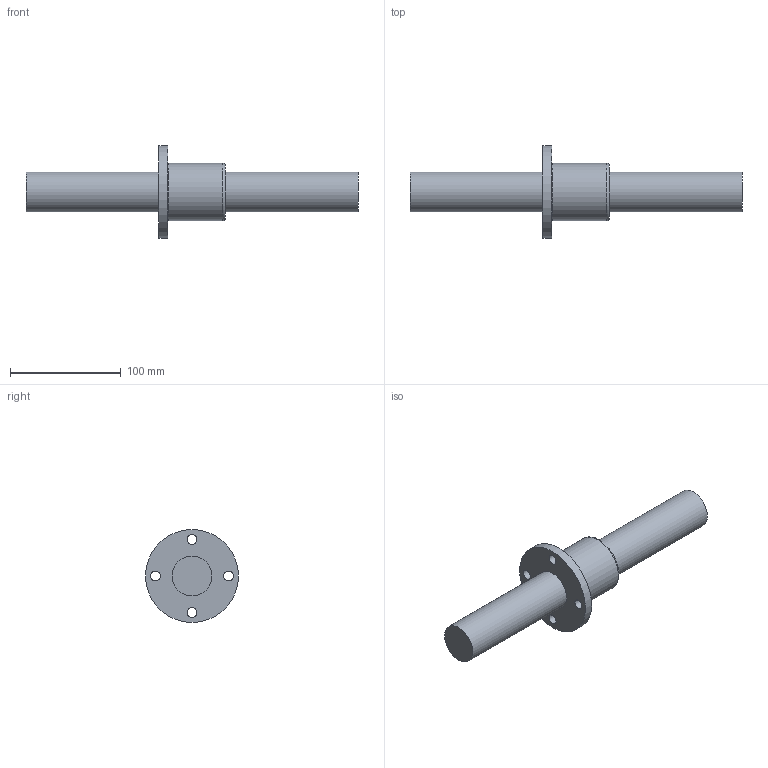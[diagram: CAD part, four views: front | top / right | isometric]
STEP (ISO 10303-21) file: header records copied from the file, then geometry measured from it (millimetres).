
FILE_DESCRIPTION((''),'2;1');
FILE_NAME('D:\製品 (図面)\カタログ用3D\ネジ関連\STEP形式\TMF\TMF36.stp','2010-06-02T15:11:48',('Tsuchiya'),(''),'Autodesk Inventor 10','Autodesk Inventor 10','');
FILE_SCHEMA(('AUTOMOTIVE_DESIGN { 1 0 10303 214 1 1 1 1 }'));
Length unit declared in the file: millimetre
Products named in the file (3): TMF36; TMF361; TMF362
Assembly tree (2 placements, depth 2):
  TMF36
    TMF361
    TMF362
Bounding box: 300 x 84 x 84 mm (x, y, z)
Volume: 396892.7 mm3; surface area: 62623.4 mm2
Topology: 2 solids, 2 shells, 15 faces, 32 edges, 22 vertices
Faces by surface type: cylinder 8, plane 5, torus 1, bspline 1
Full cylindrical faces by diameter (mm): 9 x4, 36 x2, 52 x1, 84 x1
Entity records: 470 total; most frequent: CARTESIAN_POINT 100, DIRECTION 74, AXIS2_PLACEMENT_3D 37, ORIENTED_EDGE 36, EDGE_LOOP 36, FACE_BOUND 21, VERTEX_POINT 18, CIRCLE 18
